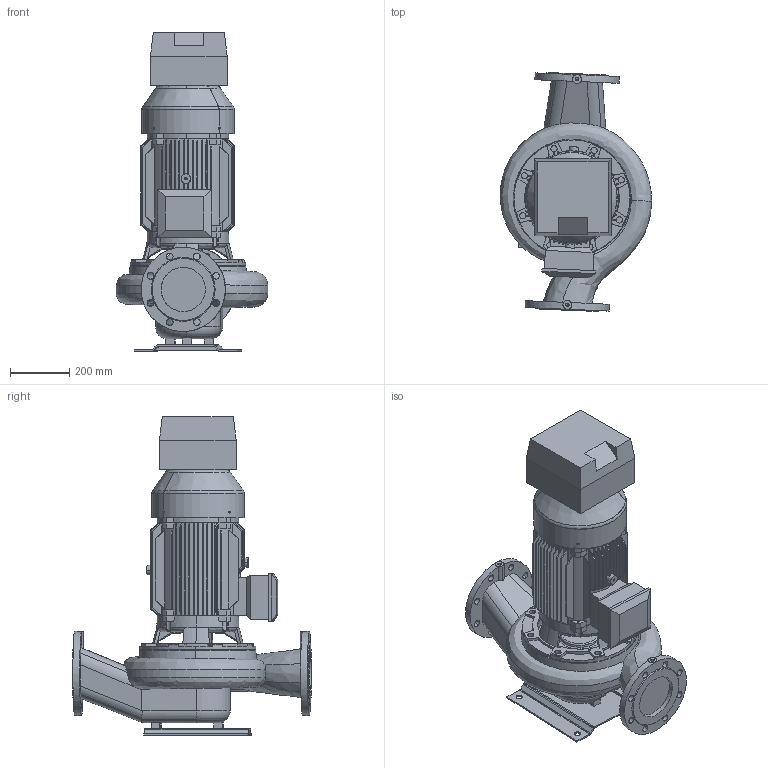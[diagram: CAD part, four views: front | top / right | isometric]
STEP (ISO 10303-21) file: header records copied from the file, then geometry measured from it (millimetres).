
FILE_DESCRIPTION(('STEP AP214'),'1');
FILE_NAME('export.stp','2018-08-08T12:30:58',(' '),(' '),'Spatial InterOp 3D',' ',' ');
FILE_SCHEMA(('AUTOMOTIVE_DESIGN { 1 0 10303 214 1 1 1 1 }'));
Length unit declared in the file: millimetre
Products named in the file (12): W_AL11544NC150KP; V_TL110611291154; P100496; P100495; P100342; V_MKP166G2F31; R200366; R200574; R200573; R200587; V_PPAL1154; NC_Size2
Assembly tree (12 placements, depth 3):
  W_AL11544NC150KP
    V_TL110611291154
    P100496
      P100495  x2
      P100342
    V_MKP166G2F31
      R200366
      R200574
      R200573
      R200587
    V_PPAL1154
    NC_Size2
Bounding box: 512.26 x 808.25 x 1078.5 mm (x, y, z)
Volume: 57989093.2 mm3; surface area: 4290175 mm2
Topology: 10 solids, 10 shells, 1867 faces, 5321 edges, 3474 vertices
Faces by surface type: plane 1245, cylinder 350, cone 188, torus 50, bspline 34
Entity records: 84305 total; most frequent: CARTESIAN_POINT 18639, ORIENTED_EDGE 10598, DIRECTION 9425, EDGE_CURVE 5299, LINE 3503, VECTOR 3503, VERTEX_POINT 3466, AXIS2_PLACEMENT_3D 2961
